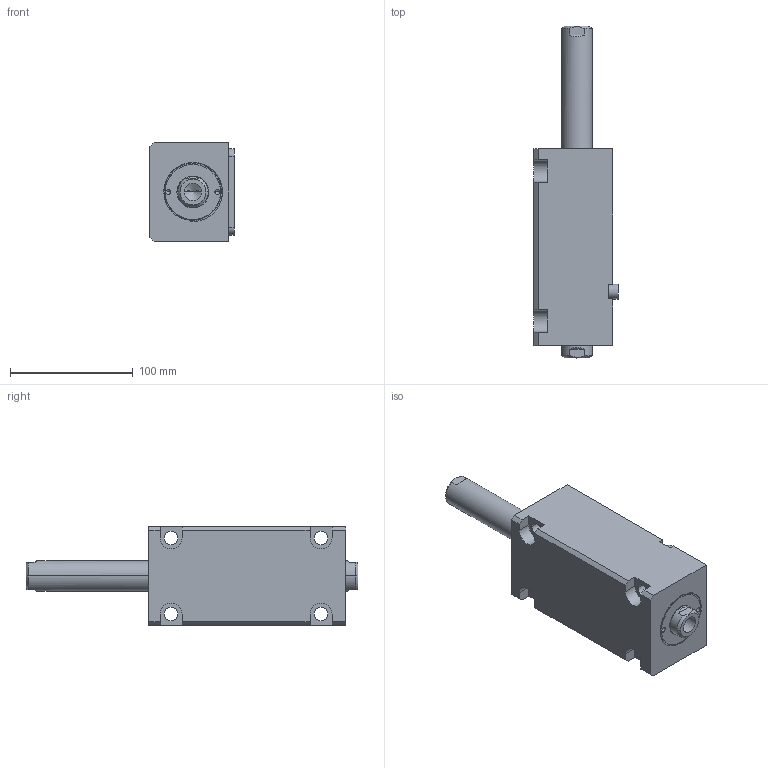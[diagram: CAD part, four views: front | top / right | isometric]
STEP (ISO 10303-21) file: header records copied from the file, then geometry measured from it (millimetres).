
FILE_DESCRIPTION (( 'STEP AP214' ), '1' );
FILE_NAME ('chtb-lwm40x90n_asm.STEP', '2018-05-30T08:26:34', ( 'Windows' ), ( 'Microsoft' ), 'SwSTEP 2.0', 'SolidWorks 2015', '' );
FILE_SCHEMA (( 'AUTOMOTIVE_DESIGN' ));
Length unit declared in the file: millimetre
Products named in the file (5): CHTB-SW40X90NHSG; CHTB-SD40QG; CHTB-LWM40X90NBT; CHTB-LA40PJ; chtb-lwm40x90n_asm
Assembly tree (4 placements, depth 2):
  chtb-lwm40x90n_asm
    CHTB-LA40PJ
    CHTB-LWM40X90NBT
    CHTB-SD40QG
    CHTB-SW40X90NHSG
Bounding box: 68.5 x 270 x 80 mm (x, y, z)
Volume: 762670.1 mm3; surface area: 122708.8 mm2
Topology: 4 solids, 4 shells, 166 faces, 450 edges, 296 vertices
Faces by surface type: cylinder 77, plane 50, bspline 14, cone 13, torus 12
Entity records: 10488 total; most frequent: CARTESIAN_POINT 6156, ORIENTED_EDGE 880, DIRECTION 821, EDGE_CURVE 440, AXIS2_PLACEMENT_3D 326, VERTEX_POINT 296, EDGE_LOOP 196, VECTOR 169
